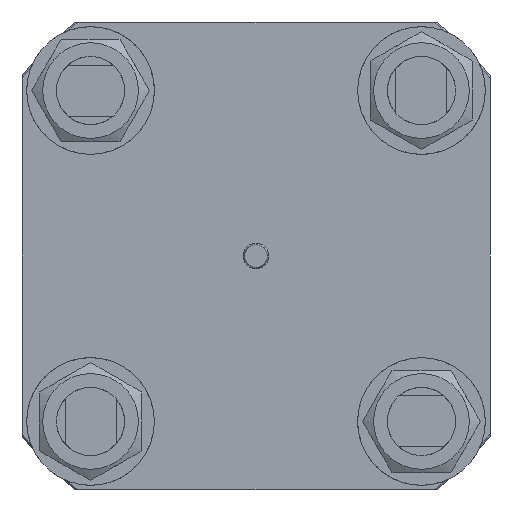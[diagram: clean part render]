
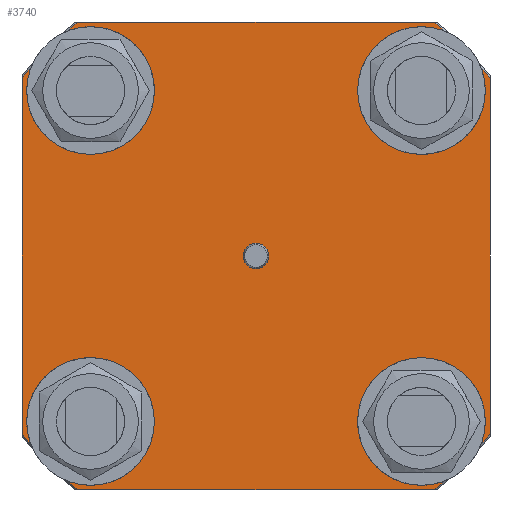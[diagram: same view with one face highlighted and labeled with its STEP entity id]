
A CAD part, left-side view. The second image highlights one B-rep face of the part: STEP entity #3740.
In plain terms, the highlighted planar face has unit normal (-1, 0, 0).
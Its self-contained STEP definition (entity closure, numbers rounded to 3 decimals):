
#45=FACE_BOUND('',#1115,.T.);
#343=LINE('',#6216,#558);
#344=LINE('',#6226,#559);
#345=LINE('',#6236,#560);
#346=LINE('',#6246,#561);
#558=VECTOR('',#4950,10.);
#559=VECTOR('',#4959,10.);
#560=VECTOR('',#4968,10.);
#561=VECTOR('',#4977,10.);
#868=FACE_OUTER_BOUND('',#1114,.T.);
#1114=EDGE_LOOP('',(#3007,#3008,#3009,#3010,#3011,#3012,#3013,#3014,#3015,
#3016,#3017,#3018,#3019,#3020,#3021,#3022,#3023,#3024,#3025,#3026));
#1115=EDGE_LOOP('',(#3027));
#1355=CIRCLE('',#4064,3.);
#1368=CIRCLE('',#4109,15.);
#1369=CIRCLE('',#4110,15.);
#1370=CIRCLE('',#4112,69.);
#1371=CIRCLE('',#4113,69.);
#1372=CIRCLE('',#4114,15.);
#1373=CIRCLE('',#4115,15.);
#1374=CIRCLE('',#4116,69.);
#1375=CIRCLE('',#4117,69.);
#1376=CIRCLE('',#4118,15.);
#1377=CIRCLE('',#4119,15.);
#1378=CIRCLE('',#4120,69.);
#1379=CIRCLE('',#4121,69.);
#1380=CIRCLE('',#4122,15.);
#1381=CIRCLE('',#4123,15.);
#1382=CIRCLE('',#4124,69.);
#1383=CIRCLE('',#4125,69.);
#1634=VERTEX_POINT('',#5980);
#1680=VERTEX_POINT('',#6200);
#1681=VERTEX_POINT('',#6201);
#1683=VERTEX_POINT('',#6208);
#1684=VERTEX_POINT('',#6213);
#1685=VERTEX_POINT('',#6215);
#1686=VERTEX_POINT('',#6217);
#1687=VERTEX_POINT('',#6219);
#1688=VERTEX_POINT('',#6221);
#1689=VERTEX_POINT('',#6223);
#1690=VERTEX_POINT('',#6225);
#1691=VERTEX_POINT('',#6227);
#1692=VERTEX_POINT('',#6229);
#1693=VERTEX_POINT('',#6231);
#1694=VERTEX_POINT('',#6233);
#1695=VERTEX_POINT('',#6235);
#1696=VERTEX_POINT('',#6237);
#1697=VERTEX_POINT('',#6239);
#1698=VERTEX_POINT('',#6241);
#1699=VERTEX_POINT('',#6243);
#1700=VERTEX_POINT('',#6245);
#2076=EDGE_CURVE('',#1634,#1634,#1355,.T.);
#2151=EDGE_CURVE('',#1680,#1683,#1368,.T.);
#2152=EDGE_CURVE('',#1683,#1681,#1369,.T.);
#2154=EDGE_CURVE('',#1681,#1684,#1370,.T.);
#2155=EDGE_CURVE('',#1684,#1685,#343,.T.);
#2156=EDGE_CURVE('',#1685,#1686,#1371,.T.);
#2157=EDGE_CURVE('',#1686,#1687,#1372,.T.);
#2158=EDGE_CURVE('',#1687,#1688,#1373,.T.);
#2159=EDGE_CURVE('',#1688,#1689,#1374,.T.);
#2160=EDGE_CURVE('',#1689,#1690,#344,.T.);
#2161=EDGE_CURVE('',#1690,#1691,#1375,.T.);
#2162=EDGE_CURVE('',#1691,#1692,#1376,.T.);
#2163=EDGE_CURVE('',#1692,#1693,#1377,.T.);
#2164=EDGE_CURVE('',#1693,#1694,#1378,.T.);
#2165=EDGE_CURVE('',#1694,#1695,#345,.T.);
#2166=EDGE_CURVE('',#1695,#1696,#1379,.T.);
#2167=EDGE_CURVE('',#1696,#1697,#1380,.T.);
#2168=EDGE_CURVE('',#1697,#1698,#1381,.T.);
#2169=EDGE_CURVE('',#1698,#1699,#1382,.T.);
#2170=EDGE_CURVE('',#1699,#1700,#346,.T.);
#2171=EDGE_CURVE('',#1700,#1680,#1383,.T.);
#3007=ORIENTED_EDGE('',*,*,#2151,.T.);
#3008=ORIENTED_EDGE('',*,*,#2152,.T.);
#3009=ORIENTED_EDGE('',*,*,#2154,.T.);
#3010=ORIENTED_EDGE('',*,*,#2155,.T.);
#3011=ORIENTED_EDGE('',*,*,#2156,.T.);
#3012=ORIENTED_EDGE('',*,*,#2157,.T.);
#3013=ORIENTED_EDGE('',*,*,#2158,.T.);
#3014=ORIENTED_EDGE('',*,*,#2159,.T.);
#3015=ORIENTED_EDGE('',*,*,#2160,.T.);
#3016=ORIENTED_EDGE('',*,*,#2161,.T.);
#3017=ORIENTED_EDGE('',*,*,#2162,.T.);
#3018=ORIENTED_EDGE('',*,*,#2163,.T.);
#3019=ORIENTED_EDGE('',*,*,#2164,.T.);
#3020=ORIENTED_EDGE('',*,*,#2165,.T.);
#3021=ORIENTED_EDGE('',*,*,#2166,.T.);
#3022=ORIENTED_EDGE('',*,*,#2167,.T.);
#3023=ORIENTED_EDGE('',*,*,#2168,.T.);
#3024=ORIENTED_EDGE('',*,*,#2169,.T.);
#3025=ORIENTED_EDGE('',*,*,#2170,.T.);
#3026=ORIENTED_EDGE('',*,*,#2171,.T.);
#3027=ORIENTED_EDGE('',*,*,#2076,.T.);
#3591=PLANE('',#4111);
#3740=ADVANCED_FACE('',(#868,#45),#3591,.T.);
#4064=AXIS2_PLACEMENT_3D('',#5981,#4825,#4826);
#4109=AXIS2_PLACEMENT_3D('',#6209,#4941,#4942);
#4110=AXIS2_PLACEMENT_3D('',#6210,#4943,#4944);
#4111=AXIS2_PLACEMENT_3D('',#6212,#4946,#4947);
#4112=AXIS2_PLACEMENT_3D('',#6214,#4948,#4949);
#4113=AXIS2_PLACEMENT_3D('',#6218,#4951,#4952);
#4114=AXIS2_PLACEMENT_3D('',#6220,#4953,#4954);
#4115=AXIS2_PLACEMENT_3D('',#6222,#4955,#4956);
#4116=AXIS2_PLACEMENT_3D('',#6224,#4957,#4958);
#4117=AXIS2_PLACEMENT_3D('',#6228,#4960,#4961);
#4118=AXIS2_PLACEMENT_3D('',#6230,#4962,#4963);
#4119=AXIS2_PLACEMENT_3D('',#6232,#4964,#4965);
#4120=AXIS2_PLACEMENT_3D('',#6234,#4966,#4967);
#4121=AXIS2_PLACEMENT_3D('',#6238,#4969,#4970);
#4122=AXIS2_PLACEMENT_3D('',#6240,#4971,#4972);
#4123=AXIS2_PLACEMENT_3D('',#6242,#4973,#4974);
#4124=AXIS2_PLACEMENT_3D('',#6244,#4975,#4976);
#4125=AXIS2_PLACEMENT_3D('',#6247,#4978,#4979);
#4825=DIRECTION('center_axis',(1.,0.,0.));
#4826=DIRECTION('ref_axis',(0.,1.,0.));
#4941=DIRECTION('center_axis',(1.,0.,0.));
#4942=DIRECTION('ref_axis',(0.,-1.,0.));
#4943=DIRECTION('center_axis',(1.,0.,0.));
#4944=DIRECTION('ref_axis',(0.,-1.,0.));
#4946=DIRECTION('center_axis',(-1.,0.,0.));
#4947=DIRECTION('ref_axis',(0.,0.,
-1.));
#4948=DIRECTION('center_axis',(-1.,0.,0.));
#4949=DIRECTION('ref_axis',(0.,0.,
-1.));
#4950=DIRECTION('',(0.,1.,0.));
#4951=DIRECTION('center_axis',(-1.,0.,0.));
#4952=DIRECTION('ref_axis',(0.,0.,
-1.));
#4953=DIRECTION('center_axis',(1.,0.,0.));
#4954=DIRECTION('ref_axis',(0.,0.,1.));
#4955=DIRECTION('center_axis',(1.,0.,0.));
#4956=DIRECTION('ref_axis',(0.,0.,1.));
#4957=DIRECTION('center_axis',(-1.,0.,0.));
#4958=DIRECTION('ref_axis',(0.,0.,
-1.));
#4959=DIRECTION('',(0.,0.,-1.));
#4960=DIRECTION('center_axis',(-1.,0.,0.));
#4961=DIRECTION('ref_axis',(0.,0.,
-1.));
#4962=DIRECTION('center_axis',(1.,0.,0.));
#4963=DIRECTION('ref_axis',(0.,1.,0.));
#4964=DIRECTION('center_axis',(1.,0.,0.));
#4965=DIRECTION('ref_axis',(0.,1.,0.));
#4966=DIRECTION('center_axis',(-1.,0.,0.));
#4967=DIRECTION('ref_axis',(0.,0.,
-1.));
#4968=DIRECTION('',(0.,-1.,0.));
#4969=DIRECTION('center_axis',(-1.,0.,0.));
#4970=DIRECTION('ref_axis',(0.,0.,
-1.));
#4971=DIRECTION('center_axis',(1.,0.,0.));
#4972=DIRECTION('ref_axis',(0.,0.,
-1.));
#4973=DIRECTION('center_axis',(1.,0.,0.));
#4974=DIRECTION('ref_axis',(0.,0.,
-1.));
#4975=DIRECTION('center_axis',(-1.,0.,0.));
#4976=DIRECTION('ref_axis',(0.,0.,
-1.));
#4977=DIRECTION('',(0.,0.,1.));
#4978=DIRECTION('center_axis',(-1.,0.,0.));
#4979=DIRECTION('ref_axis',(0.,0.,
-1.));
#5980=CARTESIAN_POINT('',(-166.208,-3.,0.));
#5981=CARTESIAN_POINT('Origin',(-166.208,0.,
0.));
#6200=CARTESIAN_POINT('',(-166.208,-52.865,44.343));
#6201=CARTESIAN_POINT('',(-166.208,-44.343,52.865));
#6208=CARTESIAN_POINT('',(-166.208,-23.891,38.891));
#6209=CARTESIAN_POINT('Origin',(-166.208,-38.891,38.891));
#6210=CARTESIAN_POINT('Origin',(-166.208,-38.891,38.891));
#6212=CARTESIAN_POINT('Origin',(-166.208,-3.1,0.));
#6213=CARTESIAN_POINT('',(-166.208,-41.665,55.));
#6214=CARTESIAN_POINT('Origin',(-166.208,0.,
0.));
#6215=CARTESIAN_POINT('',(-166.208,41.665,55.));
#6216=CARTESIAN_POINT('',(-166.208,-27.045,55.));
#6217=CARTESIAN_POINT('',(-166.208,44.343,52.865));
#6218=CARTESIAN_POINT('Origin',(-166.208,0.,
0.));
#6219=CARTESIAN_POINT('',(-166.208,38.891,23.891));
#6220=CARTESIAN_POINT('Origin',(-166.208,38.891,38.891));
#6221=CARTESIAN_POINT('',(-166.208,52.865,44.343));
#6222=CARTESIAN_POINT('Origin',(-166.208,38.891,38.891));
#6223=CARTESIAN_POINT('',(-166.208,55.,41.665));
#6224=CARTESIAN_POINT('Origin',(-166.208,0.,
0.));
#6225=CARTESIAN_POINT('',(-166.208,55.,-41.665));
#6226=CARTESIAN_POINT('',(-166.208,55.,25.495));
#6227=CARTESIAN_POINT('',(-166.208,52.865,-44.343));
#6228=CARTESIAN_POINT('Origin',(-166.208,0.,
0.));
#6229=CARTESIAN_POINT('',(-166.208,23.891,-38.891));
#6230=CARTESIAN_POINT('Origin',(-166.208,38.891,-38.891));
#6231=CARTESIAN_POINT('',(-166.208,44.343,-52.865));
#6232=CARTESIAN_POINT('Origin',(-166.208,38.891,-38.891));
#6233=CARTESIAN_POINT('',(-166.208,41.665,-55.));
#6234=CARTESIAN_POINT('Origin',(-166.208,0.,
0.));
#6235=CARTESIAN_POINT('',(-166.208,-41.665,-55.));
#6236=CARTESIAN_POINT('',(-166.208,23.945,-55.));
#6237=CARTESIAN_POINT('',(-166.208,-44.343,-52.865));
#6238=CARTESIAN_POINT('Origin',(-166.208,0.,
0.));
#6239=CARTESIAN_POINT('',(-166.208,-38.891,-23.891));
#6240=CARTESIAN_POINT('Origin',(-166.208,-38.891,-38.891));
#6241=CARTESIAN_POINT('',(-166.208,-52.865,-44.343));
#6242=CARTESIAN_POINT('Origin',(-166.208,-38.891,-38.891));
#6243=CARTESIAN_POINT('',(-166.208,-55.,-41.665));
#6244=CARTESIAN_POINT('Origin',(-166.208,0.,
0.));
#6245=CARTESIAN_POINT('',(-166.208,-55.,41.665));
#6246=CARTESIAN_POINT('',(-166.208,-55.,-25.495));
#6247=CARTESIAN_POINT('Origin',(-166.208,0.,
0.));
